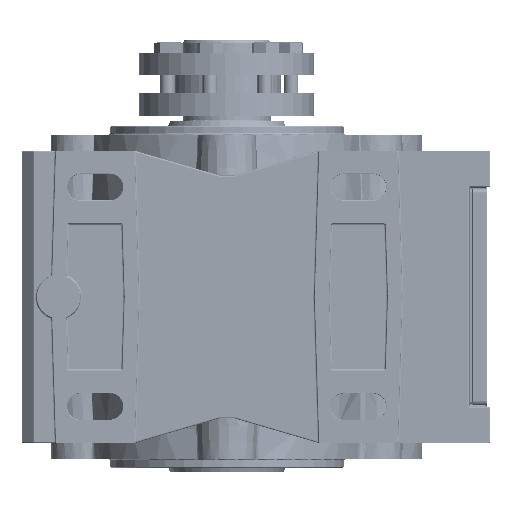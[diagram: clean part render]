
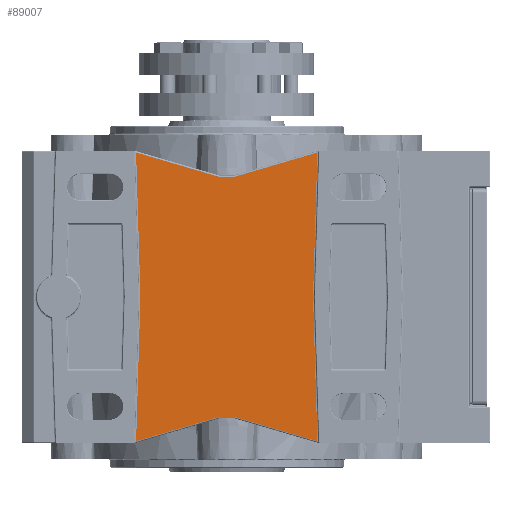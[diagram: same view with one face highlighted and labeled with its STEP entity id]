
A CAD part, left-side view. The second image highlights one B-rep face of the part: STEP entity #89007.
In plain terms, the highlighted planar face has unit normal (-1, 0, 0).
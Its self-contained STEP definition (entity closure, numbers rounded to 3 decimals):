
#83274=CARTESIAN_POINT('',(-69.0,-2.778,-62.561));
#83275=VERTEX_POINT('',#83274);
#83293=CARTESIAN_POINT('',(-69.0,-30.98,-70.826));
#83294=VERTEX_POINT('',#83293);
#83302=CARTESIAN_POINT('',(-69.0,-30.98,-70.826));
#83303=DIRECTION('',(0.0,0.96,0.281));
#83304=VECTOR('',#83303,29.388);
#83305=LINE('',#83302,#83304);
#83306=EDGE_CURVE('',#83294,#83275,#83305,.T.);
#83316=CARTESIAN_POINT('',(-69.0,-2.356,-62.5));
#83317=VERTEX_POINT('',#83316);
#83335=CARTESIAN_POINT('',(-69.0,-2.356,-64.));
#83336=DIRECTION('',(-1.0,0.,0.));
#83337=DIRECTION('',(0.,-0.142,0.99));
#83338=AXIS2_PLACEMENT_3D('',#83335,#83336,#83337);
#83339=CIRCLE('',#83338,1.5);
#83340=EDGE_CURVE('',#83275,#83317,#83339,.T.);
#83350=CARTESIAN_POINT('',(-69.0,2.356,-62.5));
#83351=VERTEX_POINT('',#83350);
#83368=CARTESIAN_POINT('',(-69.0,-2.356,-62.5));
#83369=DIRECTION('',(0.0,1.0,0.0));
#83370=VECTOR('',#83369,4.713);
#83371=LINE('',#83368,#83370);
#83372=EDGE_CURVE('',#83317,#83351,#83371,.T.);
#83382=CARTESIAN_POINT('',(-69.0,2.778,-62.561));
#83383=VERTEX_POINT('',#83382);
#83401=CARTESIAN_POINT('',(-69.0,2.356,-64.));
#83402=DIRECTION('',(-1.0,0.,0.));
#83403=DIRECTION('',(0.,0.142,0.99));
#83404=AXIS2_PLACEMENT_3D('',#83401,#83402,#83403);
#83405=CIRCLE('',#83404,1.5);
#83406=EDGE_CURVE('',#83351,#83383,#83405,.T.);
#83416=CARTESIAN_POINT('',(-69.,30.98,-70.826));
#83417=VERTEX_POINT('',#83416);
#83434=CARTESIAN_POINT('',(-69.0,2.778,-62.561));
#83435=DIRECTION('',(0.,0.96,-0.281));
#83436=VECTOR('',#83435,29.388);
#83437=LINE('',#83434,#83436);
#83438=EDGE_CURVE('',#83383,#83417,#83437,.T.);
#83727=CARTESIAN_POINT('',(-69.0,-29.501,-21.53));
#83728=VERTEX_POINT('',#83727);
#83736=CARTESIAN_POINT('',(-69.0,-29.501,-21.53));
#83737=DIRECTION('',(0.0,-0.03,-1.));
#83738=VECTOR('',#83737,49.319);
#83739=LINE('',#83736,#83738);
#83740=EDGE_CURVE('',#83728,#83294,#83739,.T.);
#84131=CARTESIAN_POINT('',(-69.0,2.778,19.561));
#84132=VERTEX_POINT('',#84131);
#84150=CARTESIAN_POINT('',(-69.,30.98,27.826));
#84151=VERTEX_POINT('',#84150);
#84159=CARTESIAN_POINT('',(-69.,30.98,27.826));
#84160=DIRECTION('',(0.,-0.96,-0.281));
#84161=VECTOR('',#84160,29.388);
#84162=LINE('',#84159,#84161);
#84163=EDGE_CURVE('',#84151,#84132,#84162,.T.);
#84173=CARTESIAN_POINT('',(-69.0,2.356,19.5));
#84174=VERTEX_POINT('',#84173);
#84192=CARTESIAN_POINT('',(-69.0,2.356,21.0));
#84193=DIRECTION('',(-1.0,0.,0.));
#84194=DIRECTION('',(0.,0.142,-0.99));
#84195=AXIS2_PLACEMENT_3D('',#84192,#84193,#84194);
#84196=CIRCLE('',#84195,1.5);
#84197=EDGE_CURVE('',#84132,#84174,#84196,.T.);
#84207=CARTESIAN_POINT('',(-69.0,-2.356,19.5));
#84208=VERTEX_POINT('',#84207);
#84225=CARTESIAN_POINT('',(-69.0,2.356,19.5));
#84226=DIRECTION('',(0.0,-1.0,0.0));
#84227=VECTOR('',#84226,4.713);
#84228=LINE('',#84225,#84227);
#84229=EDGE_CURVE('',#84174,#84208,#84228,.T.);
#84239=CARTESIAN_POINT('',(-69.0,-2.778,19.561));
#84240=VERTEX_POINT('',#84239);
#84258=CARTESIAN_POINT('',(-69.0,-2.356,21.0));
#84259=DIRECTION('',(-1.0,0.,0.));
#84260=DIRECTION('',(0.,-0.142,-0.99));
#84261=AXIS2_PLACEMENT_3D('',#84258,#84259,#84260);
#84262=CIRCLE('',#84261,1.5);
#84263=EDGE_CURVE('',#84208,#84240,#84262,.T.);
#84273=CARTESIAN_POINT('',(-69.0,-30.98,27.826));
#84274=VERTEX_POINT('',#84273);
#84291=CARTESIAN_POINT('',(-69.0,-2.778,19.561));
#84292=DIRECTION('',(0.0,-0.96,0.281));
#84293=VECTOR('',#84292,29.388);
#84294=LINE('',#84291,#84293);
#84295=EDGE_CURVE('',#84240,#84274,#84294,.T.);
#86988=CARTESIAN_POINT('',(-69.,29.5,-21.479));
#86989=VERTEX_POINT('',#86988);
#86997=CARTESIAN_POINT('',(-69.,29.5,-21.479));
#86998=DIRECTION('',(0.0,0.03,1.));
#86999=VECTOR('',#86998,49.328);
#87000=LINE('',#86997,#86999);
#87001=EDGE_CURVE('',#86989,#84151,#87000,.T.);
#87011=CARTESIAN_POINT('',(-69.,29.5,-21.521));
#87012=VERTEX_POINT('',#87011);
#87020=CARTESIAN_POINT('',(-69.,30.2,-21.5));
#87021=DIRECTION('',(-1.0,0.0,0.0));
#87022=DIRECTION('',(0.0,-1.0,0.0));
#87023=AXIS2_PLACEMENT_3D('',#87020,#87021,#87022);
#87024=CIRCLE('',#87023,0.7);
#87025=EDGE_CURVE('',#87012,#86989,#87024,.T.);
#87038=CARTESIAN_POINT('',(-69.,30.98,-70.826));
#87039=DIRECTION('',(0.0,-0.03,1.));
#87040=VECTOR('',#87039,49.328);
#87041=LINE('',#87038,#87040);
#87042=EDGE_CURVE('',#83417,#87012,#87041,.T.);
#88946=CARTESIAN_POINT('',(-69.0,-29.501,-21.47));
#88947=VERTEX_POINT('',#88946);
#88955=CARTESIAN_POINT('',(-69.0,-30.5,-21.5));
#88956=DIRECTION('',(-1.0,0.0,0.0));
#88957=DIRECTION('',(0.0,1.0,0.0));
#88958=AXIS2_PLACEMENT_3D('',#88955,#88956,#88957);
#88959=CIRCLE('',#88958,1.0);
#88960=EDGE_CURVE('',#88947,#83728,#88959,.T.);
#88973=CARTESIAN_POINT('',(-69.0,-30.98,27.826));
#88974=DIRECTION('',(0.0,0.03,-1.));
#88975=VECTOR('',#88974,49.319);
#88976=LINE('',#88973,#88975);
#88977=EDGE_CURVE('',#84274,#88947,#88976,.T.);
#88984=CARTESIAN_POINT('',(-69.0,0.,3.836));
#88985=DIRECTION('',(1.0,0.0,0.0));
#88986=DIRECTION('',(0.0,0.0,-1.0));
#88987=AXIS2_PLACEMENT_3D('',#88984,#88985,#88986);
#88988=PLANE('',#88987);
#88989=ORIENTED_EDGE('',*,*,#83306,.F.);
#88990=ORIENTED_EDGE('',*,*,#83740,.F.);
#88991=ORIENTED_EDGE('',*,*,#88960,.F.);
#88992=ORIENTED_EDGE('',*,*,#88977,.F.);
#88993=ORIENTED_EDGE('',*,*,#84295,.F.);
#88994=ORIENTED_EDGE('',*,*,#84263,.F.);
#88995=ORIENTED_EDGE('',*,*,#84229,.F.);
#88996=ORIENTED_EDGE('',*,*,#84197,.F.);
#88997=ORIENTED_EDGE('',*,*,#84163,.F.);
#88998=ORIENTED_EDGE('',*,*,#87001,.F.);
#88999=ORIENTED_EDGE('',*,*,#87025,.F.);
#89000=ORIENTED_EDGE('',*,*,#87042,.F.);
#89001=ORIENTED_EDGE('',*,*,#83438,.F.);
#89002=ORIENTED_EDGE('',*,*,#83406,.F.);
#89003=ORIENTED_EDGE('',*,*,#83372,.F.);
#89004=ORIENTED_EDGE('',*,*,#83340,.F.);
#89005=EDGE_LOOP('',(#88989,#88990,#88991,#88992,#88993,#88994,#88995,#88996,#88997,#88998,#88999,#89000,#89001,#89002,#89003,#89004));
#89006=FACE_OUTER_BOUND('',#89005,.T.);
#89007=ADVANCED_FACE('',(#89006),#88988,.F.);
